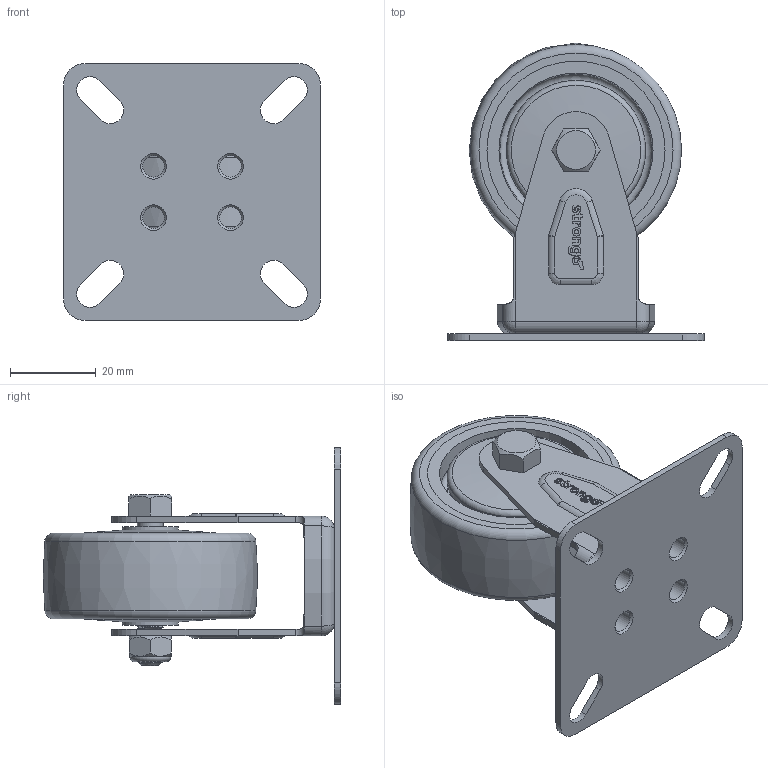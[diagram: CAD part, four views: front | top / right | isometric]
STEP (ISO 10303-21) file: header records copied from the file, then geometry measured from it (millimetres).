
FILE_DESCRIPTION(('STEP AP203'),'1');
FILE_NAME('E:/Pomoc/Strongo/343a39J050rZPC.stp',' ',(' '),(' '),'XStep 1.0',' ',' ');
FILE_SCHEMA(('CONFIG_CONTROL_DESIGN'));
Length unit declared in the file: metre
Products named in the file (3): Assembly57; Assembly53; Next assembly relationship
Bounding box: 60 x 69.5 x 60 mm (x, y, z)
Volume: 81488.3 mm3; surface area: 75644.7 mm2
Topology: 38 solids, 38 shells, 2198 faces, 6162 edges, 4056 vertices
Faces by surface type: plane 1780, cylinder 237, torus 71, sphere 52, cone 35, bspline 23
Full cylindrical faces by diameter (mm): 1.038 x4, 2.007 x2, 5 x9, 6 x15, 6.2 x4, 6.3 x4, 6.5 x8, 7 x8, 10 x6, 13 x4, 14 x8, 22.4 x4, 23 x4, 26 x4, 30.5 x4, 32.5 x4, 41.6 x4
Entity records: 38126 total; most frequent: CARTESIAN_POINT 9982, ORIENTED_EDGE 5936, DIRECTION 5408, EDGE_CURVE 2968, LINE 2618, VECTOR 2618, VERTEX_POINT 1994, AXIS2_PLACEMENT_3D 1395
